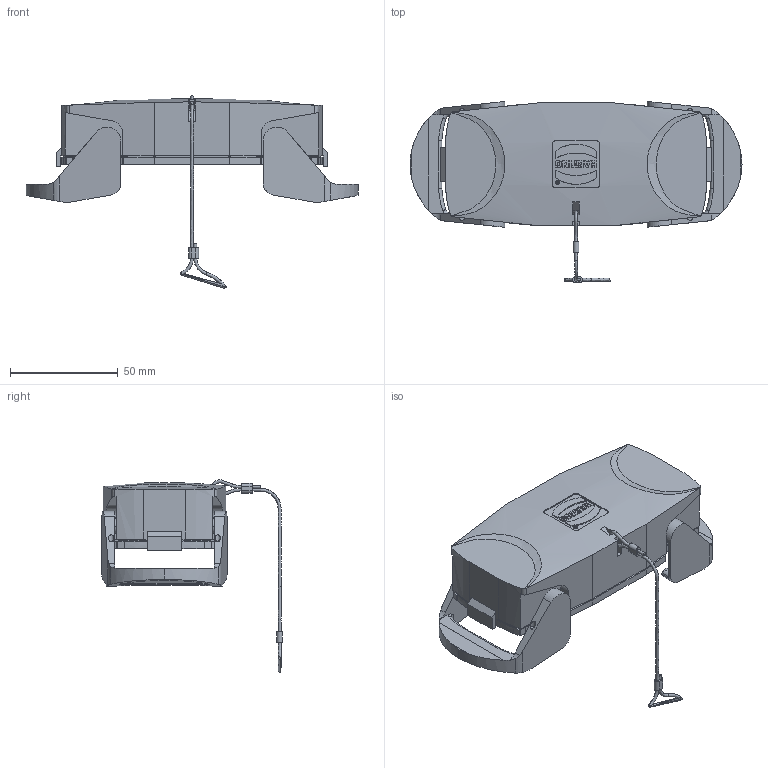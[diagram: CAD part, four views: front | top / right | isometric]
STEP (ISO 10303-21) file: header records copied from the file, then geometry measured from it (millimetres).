
FILE_DESCRIPTION(/* description */ (''),/* implementation_level */ '2;1');
FILE_NAME(/* name */ '100231318ugm000_d.stp',/* time_stamp */ '2022-03-11T16:45:49+01:00',/* author */ (''),/* organization */ (''),/* preprocessor_version */ 'ST-DEVELOPER v16.7',/* originating_system */ 'SIEMENS PLM Software NX 1911',/* authorisation */ '');
FILE_SCHEMA (('AUTOMOTIVE_DESIGN { 1 0 10303 214 3 1 1 1 }'));
Length unit declared in the file: millimetre
Products named in the file (1): 100231318ugm000_d
Bounding box: 154 x 83.93 x 89.27 mm (x, y, z)
Volume: 85043.5 mm3; surface area: 45061.5 mm2
Topology: 3 solids, 3 shells, 563 faces, 1522 edges, 997 vertices
Faces by surface type: plane 292, cylinder 135, bspline 89, torus 24, extrusion 10, revolution 9, cone 4
Full cylindrical faces by diameter (mm): 2.5 x4
Entity records: 28749 total; most frequent: CARTESIAN_POINT 12165, ORIENTED_EDGE 3010, DIRECTION 2374, EDGE_CURVE 1505, VERTEX_POINT 991, AXIS2_PLACEMENT_3D 792, VECTOR 781, LINE 771
